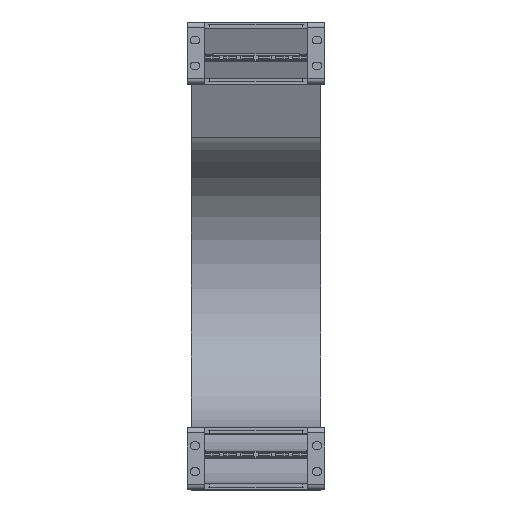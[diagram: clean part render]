
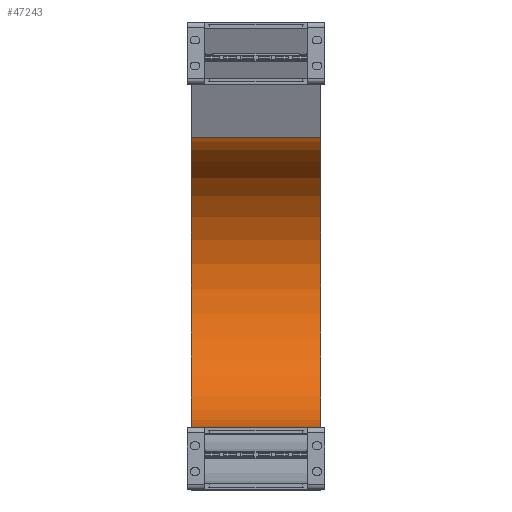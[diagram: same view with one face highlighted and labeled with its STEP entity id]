
A CAD part, top view. The second image highlights one B-rep face of the part: STEP entity #47243.
In plain terms, the highlighted cylindrical face has radius 84.5 mm (diameter 169 mm), a partial arc.
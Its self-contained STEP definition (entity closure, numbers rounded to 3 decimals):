
#46395=DIRECTION('',(-1.,0.,0.));
#46396=VECTOR('',#46395,75.);
#46397=CARTESIAN_POINT('',(37.5,36.,-400.));
#46398=LINE('',#46397,#46396);
#46409=DIRECTION('',(-1.,0.,0.));
#46410=VECTOR('',#46409,75.);
#46411=CARTESIAN_POINT('',(37.5,204.681,-407.334));
#46412=LINE('',#46411,#46410);
#46416=CARTESIAN_POINT('',(37.5,120.5,-400.));
#46417=DIRECTION('',(-1.,0.,0.));
#46418=DIRECTION('',(0.,0.996,-0.087));
#46419=AXIS2_PLACEMENT_3D('',#46416,#46417,#46418);
#46495=CARTESIAN_POINT('',(-37.5,120.5,-400.));
#46496=DIRECTION('',(-1.,0.,0.));
#46497=DIRECTION('',(0.,0.996,-0.087));
#46498=AXIS2_PLACEMENT_3D('',#46495,#46496,#46497);
#46617=CARTESIAN_POINT('',(37.5,204.681,-407.334));
#46618=CARTESIAN_POINT('',(-37.5,204.681,-407.334));
#46619=VERTEX_POINT('',#46617);
#46620=VERTEX_POINT('',#46618);
#46641=CARTESIAN_POINT('',(37.5,36.,-400.));
#46642=CARTESIAN_POINT('',(-37.5,36.,-400.));
#46643=VERTEX_POINT('',#46641);
#46644=VERTEX_POINT('',#46642);
#47229=CARTESIAN_POINT('',(1.,120.5,-400.));
#47230=DIRECTION('',(-1.,0.,0.));
#47231=DIRECTION('',(0.,-0.996,0.087));
#47232=AXIS2_PLACEMENT_3D('',#47229,#47230,#47231);
#47233=CYLINDRICAL_SURFACE('',#47232,84.5);
#47235=ORIENTED_EDGE('',*,*,#47234,.F.);
#47237=ORIENTED_EDGE('',*,*,#47236,.T.);
#47238=ORIENTED_EDGE('',*,*,#47212,.T.);
#47240=ORIENTED_EDGE('',*,*,#47239,.F.);
#47241=EDGE_LOOP('',(#47235,#47237,#47238,#47240));
#47242=FACE_OUTER_BOUND('',#47241,.F.);
#46420=CIRCLE('',#46419,84.5);
#46499=CIRCLE('',#46498,84.5);
#47212=EDGE_CURVE('',#46643,#46644,#46398,.T.);
#47234=EDGE_CURVE('',#46619,#46620,#46412,.T.);
#47236=EDGE_CURVE('',#46619,#46643,#46420,.T.);
#47239=EDGE_CURVE('',#46620,#46644,#46499,.T.);
#47243=ADVANCED_FACE('',(#47242),#47233,.F.);
